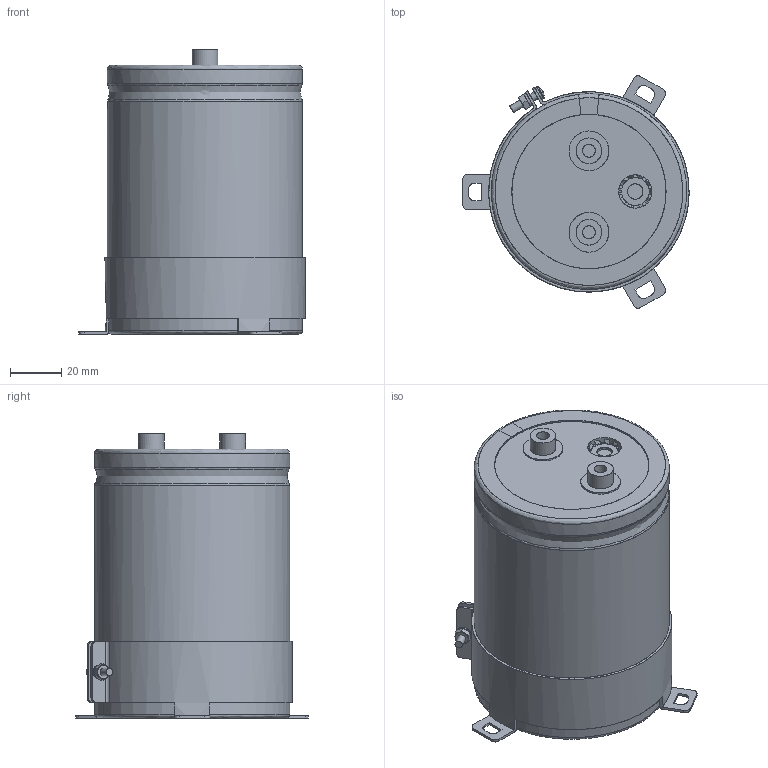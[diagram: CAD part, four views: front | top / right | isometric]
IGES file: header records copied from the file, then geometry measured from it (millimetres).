
Start section: JAMA-IS VERSION  1.0
Bounding box: 88.3 x 90.75 x 111 mm (x, y, z)
Surface area: 105723.2 mm2 (no closed solid volume)
Topology: 0 solids, 0 shells, 259 faces, 4448 edges, 4417 vertices
Faces by surface type: bspline 259
